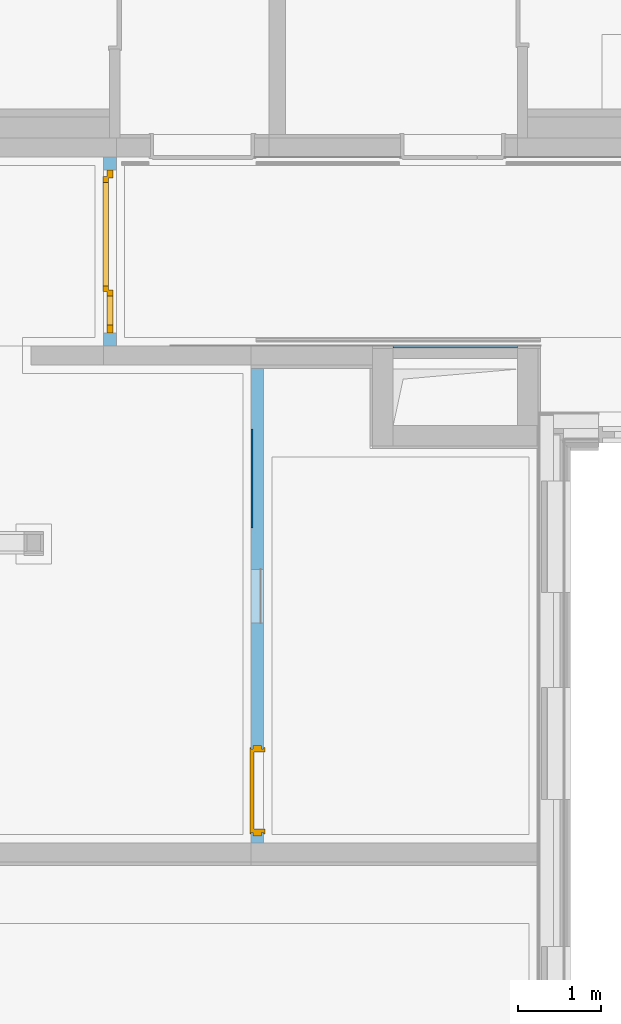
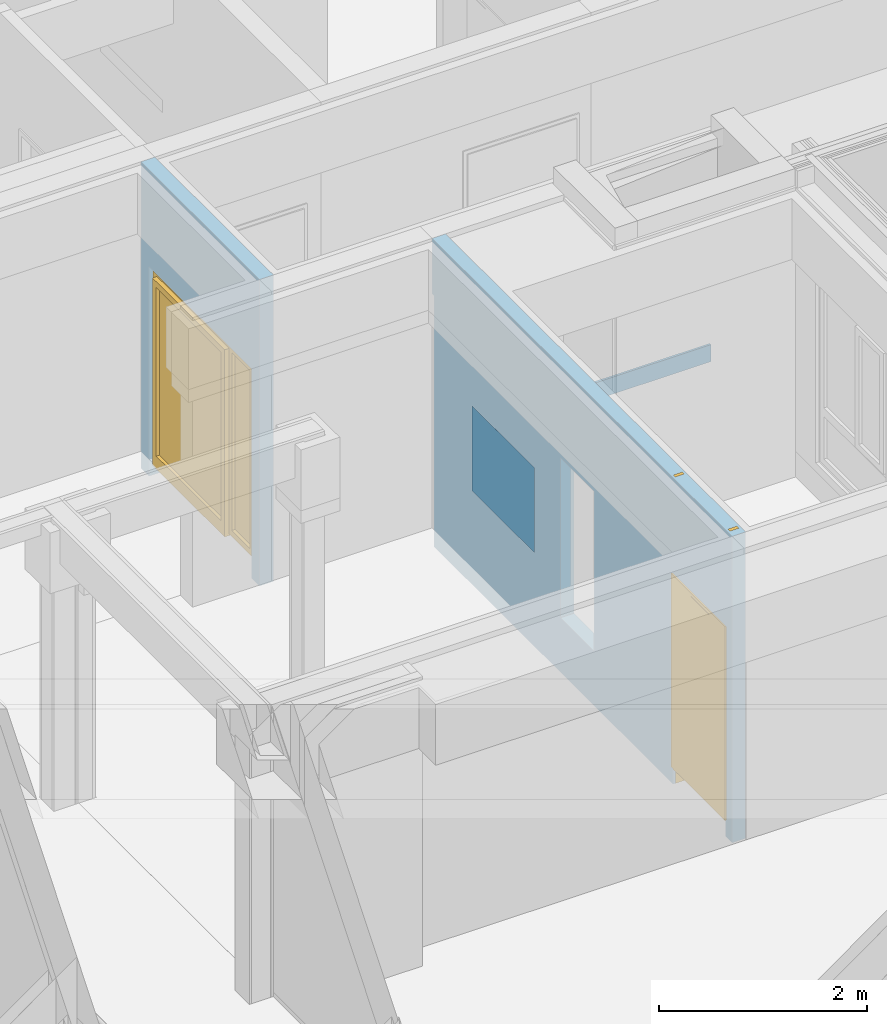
# One storey, part 132 of 207: 2 doors, 2 walls, 3 openings, plus 2 elements that do not belong to this part.
"""IFC4 building model written with IfcOpenShell, lengths in metres."""

from ifc_helpers import new_model, entity, si_unit, converted_unit, derived_unit, frame, frame_2d, origin, origin_with_axes, place, context, subcontext, project, spatial, polyline, rectangle, outline, extrude, clip, bounded_halfspace, closed_shell, open_shell, faceted_brep, surface_model, source, transform, mapped, material, type_object, element, fill, save


model = new_model("IFC4")

# Units and contexts
model_context = context("Model", 3, precision=1e-05, world=origin())
body_context = subcontext(model_context, "Body", "Model", "MODEL_VIEW")
ifc_project = project(units=[si_unit("LENGTHUNIT", "METRE"), si_unit("AREAUNIT", "SQUARE_METRE"), si_unit("VOLUMEUNIT", "CUBIC_METRE"), si_unit("MASSUNIT", "GRAM", prefix="KILO"), converted_unit("PLANEANGLEUNIT", "DEGREE", entity("IfcPlaneAngleMeasure", 0.0174532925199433), si_unit("PLANEANGLEUNIT", "RADIAN"), dimensions=[0, 0, 0, 0, 0, 0, 0]), derived_unit("THERMALTRANSMITTANCEUNIT", [(si_unit("POWERUNIT", "WATT"), 1), (si_unit("THERMODYNAMICTEMPERATUREUNIT", "KELVIN"), -1), (si_unit("LENGTHUNIT", "METRE"), -2)]), derived_unit("VOLUMETRICFLOWRATEUNIT", [(si_unit("LENGTHUNIT", "METRE"), 3), (converted_unit("TIMEUNIT", "hour", entity("IfcTimeMeasure", 3600.0), si_unit("TIMEUNIT", "SECOND"), dimensions=[0, 0, 1, 0, 0, 0, 0]), -1), (si_unit("LENGTHUNIT", "METRE"), -1)])], contexts=[model_context])

# Site, building, storey
site_placement = place(None, origin())
site = spatial("IfcSite", under=ifc_project, at=site_placement, Name="Psychiatrie Neubau Wunstorf", CompositionType="ELEMENT")
building_placement = place(site_placement, origin())
building = spatial("IfcBuilding", under=site, at=building_placement, Name="Neubau H2 Stationsgebäude", CompositionType="ELEMENT")
storey_placement = place(building_placement, frame((0.0, 0.0, -0.2)))
storey = spatial("IfcBuildingStorey", under=building, at=storey_placement, Name="H2 Ebene 0", CompositionType="ELEMENT", Elevation=-0.2)

# Wall
wall_1_placement = place(storey_placement, frame((75.684, 20.6340000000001, 1.1)))
element("IfcWall", 1, at=wall_1_placement, inside=storey, Name="WV 1.1", context=body_context, shape_type="Brep", body=[
    faceted_brep([(0.025, 1.2, 0.0), (0.0, 1.2, 0.0), (0.0, 0.0, 0.0), (0.025, 0.0, 0.0), (0.0, 1.2, 1.0), (0.025, 1.2, 1.0), (0.025, 0.0, 1.0), (0.0, 0.0, 1.0)], [[[0, 1, 2, 3]], [[4, 5, 6, 7]], [[1, 0, 5, 4]], [[2, 1, 4, 7]], [[3, 2, 7, 6]], [[0, 3, 6, 5]]], orient=[[False], [False], [False], [False], [False], [False]]),
])

# Wall, openings, door
ifc_material_1 = material(Name="WI-LB")
wall_2_placement = place(storey_placement, frame((75.684, 22.604, 0.0), z_axis=(0.0, 0.0, 1.0), x_axis=(0.0, -1.0, 0.0)))
wall_2 = element("IfcWall", 2, at=wall_2_placement, inside=storey, material=ifc_material_1, context=body_context, shape_type="Clipping", body=[
    clip(extrude(rectangle(XDim=5.7715, YDim=0.15, at=frame_2d((2.88575, 0.075), x_axis=(1.0, 0.0))), origin_with_axes(), (0.0, 0.0, 1.0), 3.6), bounded_halfspace(frame((0.02, 0.075, 2.95), z_axis=(0.0, 0.0, 1.0), x_axis=(0.0, 1.0, 0.0)), True, origin_with_axes(), polyline([(0.04, 0.0), (0.04, 0.15), (0.0, 0.15), (0.0, 0.0), (0.04, 0.0)]))),
])
opening_1_placement = place(wall_2_placement, frame((4.6365, 0.0, 0.0), z_axis=(0.0, 1.0, 0.0), x_axis=(0.0, 0.0, 1.0)))
opening_1 = element("IfcOpeningElement", 3, at=opening_1_placement, cuts=wall_2, Name="Türöffnung", ObjectType="Opening", context=body_context, shape_type="SweptSolid", body=[
    extrude(outline(polyline([(2.46, 1.01), (2.46, 0.0), (0.0, 0.0), (0.0, 1.01), (2.46, 1.01)])), origin_with_axes(), (0.0, 0.0, 1.0), 0.15),
])
opening_2_placement = place(wall_2_placement, frame((2.46720215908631, 0.0, 0.64), z_axis=(0.0, 1.0, 0.0), x_axis=(0.0, 0.0, 1.0)))
element("IfcOpeningElement", 4, at=opening_2_placement, cuts=wall_2, Name="Fensteröffnung", ObjectType="Opening", context=body_context, shape_type="SweptSolid", body=[
    extrude(outline(polyline([(1.88, 0.649942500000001), (1.88, 0.0), (0.0, 0.0), (0.0, 0.649942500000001), (1.88, 0.649942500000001)])), origin_with_axes(), (0.0, 0.0, 1.0), 0.15),
])
ifc_material_2 = material(Name="TI-1F-UZ-ZK")
door_type = type_object("IfcDoorType", Name="SMT", OperationType="SINGLE_SWING_RIGHT", ParameterTakesPrecedence=False, PredefinedType="DOOR")
shared_shape_1 = source(origin_with_axes(), body_context, "Body", "Brep", [
    faceted_brep([(-0.0399999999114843, 0.0250000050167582, 0.0), (0.0, 0.0250000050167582, 0.0), (0.0, 0.1249999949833, 0.0), (-0.0399999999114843, 0.1249999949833, 0.0), (-0.0399999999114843, 0.1249999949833, 3.6), (0.0, 0.1249999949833, 3.6), (0.0, 0.0250000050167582, 3.6), (-0.0399999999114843, 0.0250000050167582, 3.6)], [[[0, 1, 2, 3]], [[4, 5, 6, 7]], [[3, 4, 7, 0]], [[2, 5, 4, 3]], [[1, 6, 5, 2]], [[0, 7, 6, 1]]], orient=[[False], [False], [False], [False], [False], [False]]),
    faceted_brep([(1.00999999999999, 0.0250000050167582, 0.0), (1.04999999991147, 0.0250000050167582, 0.0), (1.04999999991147, 0.1249999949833, 0.0), (1.00999999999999, 0.1249999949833, 0.0), (1.00999999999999, 0.1249999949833, 3.6), (1.04999999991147, 0.1249999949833, 3.6), (1.04999999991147, 0.0250000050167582, 3.6), (1.00999999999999, 0.0250000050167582, 3.6)], [[[0, 1, 2, 3]], [[4, 5, 6, 7]], [[3, 4, 7, 0]], [[2, 5, 4, 3]], [[1, 6, 5, 2]], [[0, 7, 6, 1]]], orient=[[False], [False], [False], [False], [False], [False]]),
    faceted_brep([(0.0, 0.0250000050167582, 2.46), (1.00999999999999, 0.0250000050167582, 2.46), (1.00999999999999, 0.1249999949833, 2.46), (0.0, 0.1249999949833, 2.46), (0.0, 0.1249999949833, 2.5), (1.00999999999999, 0.1249999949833, 2.5), (1.00999999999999, 0.0250000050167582, 2.5), (0.0, 0.0250000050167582, 2.5)], [[[0, 1, 2, 3]], [[4, 5, 6, 7]], [[3, 4, 7, 0]], [[2, 5, 4, 3]], [[1, 6, 5, 2]], [[0, 7, 6, 1]]], orient=[[False], [False], [False], [False], [False], [False]]),
])
shared_shape_2 = source(origin_with_axes(), body_context, "Body", "Brep", [
    faceted_brep([(0.0, -0.0149999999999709, 2.46), (0.0399999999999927, -0.0149999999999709, 2.46), (0.0399999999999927, -0.0149999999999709, 0.2), (0.0, -0.0149999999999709, 0.2), (0.0, 0.165000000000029, 0.2), (0.0399999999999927, 0.165000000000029, 0.2), (0.0399999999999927, 0.165000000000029, 2.46), (0.0, 0.165000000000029, 2.46)], [[[0, 1, 2, 3]], [[4, 5, 6, 7]], [[3, 4, 7, 0]], [[2, 5, 4, 3]], [[1, 6, 5, 2]], [[0, 7, 6, 1]]], orient=[[False], [False], [False], [False], [False], [False]]),
    faceted_brep([(0.0, -0.0149999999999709, 2.475), (0.0, -0.0149999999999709, 0.2), (-0.0150000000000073, -0.0149999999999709, 0.2), (-0.0150000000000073, -0.0149999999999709, 2.475), (0.0, 0.0, 0.2), (0.0, 0.0, 2.475), (-0.0150000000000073, 0.0, 2.475), (-0.0150000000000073, 0.0, 0.2)], [[[0, 1, 2, 3]], [[4, 5, 6, 7]], [[1, 0, 5, 4]], [[2, 1, 4, 7]], [[3, 2, 7, 6]], [[0, 3, 6, 5]]], orient=[[False], [False], [False], [False], [False], [False]]),
    faceted_brep([(0.0, 0.150000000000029, 2.475), (0.0, 0.150000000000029, 0.2), (-0.0150000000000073, 0.150000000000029, 0.2), (-0.0150000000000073, 0.150000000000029, 2.475), (0.0, 0.165000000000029, 0.2), (0.0, 0.165000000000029, 2.475), (-0.0150000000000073, 0.165000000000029, 2.475), (-0.0150000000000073, 0.165000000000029, 0.2)], [[[0, 1, 2, 3]], [[4, 5, 6, 7]], [[1, 0, 5, 4]], [[2, 1, 4, 7]], [[3, 2, 7, 6]], [[0, 3, 6, 5]]], orient=[[False], [False], [False], [False], [False], [False]]),
    faceted_brep([(0.969999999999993, -0.0149999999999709, 2.46), (1.00999999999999, -0.0149999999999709, 2.46), (1.00999999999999, -0.0149999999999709, 0.2), (0.969999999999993, -0.0149999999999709, 0.2), (0.969999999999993, 0.165000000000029, 0.2), (1.00999999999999, 0.165000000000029, 0.2), (1.00999999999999, 0.165000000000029, 2.46), (0.969999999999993, 0.165000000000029, 2.46)], [[[0, 1, 2, 3]], [[4, 5, 6, 7]], [[3, 4, 7, 0]], [[2, 5, 4, 3]], [[1, 6, 5, 2]], [[0, 7, 6, 1]]], orient=[[False], [False], [False], [False], [False], [False]]),
    faceted_brep([(1.00999999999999, -0.0149999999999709, 2.475), (1.02499999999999, -0.0149999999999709, 2.475), (1.02499999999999, -0.0149999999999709, 0.2), (1.00999999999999, -0.0149999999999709, 0.2), (1.00999999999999, 0.0, 0.2), (1.02499999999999, 0.0, 0.2), (1.02499999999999, 0.0, 2.475), (1.00999999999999, 0.0, 2.475)], [[[0, 1, 2, 3]], [[4, 5, 6, 7]], [[3, 4, 7, 0]], [[2, 5, 4, 3]], [[1, 6, 5, 2]], [[0, 7, 6, 1]]], orient=[[False], [False], [False], [False], [False], [False]]),
    faceted_brep([(1.00999999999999, 0.150000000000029, 2.475), (1.02499999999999, 0.150000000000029, 2.475), (1.02499999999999, 0.150000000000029, 0.2), (1.00999999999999, 0.150000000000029, 0.2), (1.00999999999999, 0.165000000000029, 0.2), (1.02499999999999, 0.165000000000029, 0.2), (1.02499999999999, 0.165000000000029, 2.475), (1.00999999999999, 0.165000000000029, 2.475)], [[[0, 1, 2, 3]], [[4, 5, 6, 7]], [[3, 4, 7, 0]], [[2, 5, 4, 3]], [[1, 6, 5, 2]], [[0, 7, 6, 1]]], orient=[[False], [False], [False], [False], [False], [False]]),
    faceted_brep([(0.0399999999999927, -0.0149999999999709, 2.46), (0.969999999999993, -0.0149999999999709, 2.46), (0.969999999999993, -0.0149999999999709, 2.42), (0.0399999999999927, -0.0149999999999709, 2.42), (0.0399999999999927, 0.165000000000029, 2.42), (0.969999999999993, 0.165000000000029, 2.42), (0.969999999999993, 0.165000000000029, 2.46), (0.0399999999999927, 0.165000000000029, 2.46)], [[[0, 1, 2, 3]], [[4, 5, 6, 7]], [[3, 4, 7, 0]], [[2, 5, 4, 3]], [[1, 6, 5, 2]], [[0, 7, 6, 1]]], orient=[[False], [False], [False], [False], [False], [False]]),
    faceted_brep([(0.0, -0.0149999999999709, 2.475), (1.00999999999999, -0.0149999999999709, 2.475), (1.00999999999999, -0.0149999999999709, 2.46), (0.0, -0.0149999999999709, 2.46), (0.0, 0.0, 2.46), (1.00999999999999, 0.0, 2.46), (1.00999999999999, 0.0, 2.475), (0.0, 0.0, 2.475)], [[[0, 1, 2, 3]], [[4, 5, 6, 7]], [[3, 4, 7, 0]], [[2, 5, 4, 3]], [[1, 6, 5, 2]], [[0, 7, 6, 1]]], orient=[[False], [False], [False], [False], [False], [False]]),
    faceted_brep([(0.0, 0.150000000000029, 2.475), (1.00999999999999, 0.150000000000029, 2.475), (1.00999999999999, 0.150000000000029, 2.46), (0.0, 0.150000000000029, 2.46), (0.0, 0.165000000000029, 2.46), (1.00999999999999, 0.165000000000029, 2.46), (1.00999999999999, 0.165000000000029, 2.475), (0.0, 0.165000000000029, 2.475)], [[[0, 1, 2, 3]], [[4, 5, 6, 7]], [[3, 4, 7, 0]], [[2, 5, 4, 3]], [[1, 6, 5, 2]], [[0, 7, 6, 1]]], orient=[[False], [False], [False], [False], [False], [False]]),
    faceted_brep([(0.0249999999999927, 0.116000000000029, 2.435), (0.984999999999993, 0.116000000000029, 2.435), (0.984999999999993, 0.116000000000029, 0.2), (0.0249999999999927, 0.116000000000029, 0.2), (0.0249999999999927, 0.166000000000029, 0.2), (0.984999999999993, 0.166000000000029, 0.2), (0.984999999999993, 0.166000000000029, 2.435), (0.0249999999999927, 0.166000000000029, 2.435)], [[[0, 1, 2, 3]], [[4, 5, 6, 7]], [[3, 4, 7, 0]], [[2, 5, 4, 3]], [[1, 6, 5, 2]], [[0, 7, 6, 1]]], orient=[[False], [False], [False], [False], [False], [False]]),
])
door_1_placement = place(opening_1_placement, frame((0.0, 1.01, 0.15), z_axis=(1.0, 0.0, 0.0), x_axis=(0.0, -1.0, 0.0)))
door_1 = element("IfcDoor", 5, at=door_1_placement, inside=storey, type_object=door_type, material=ifc_material_2, Name="SMT", OverallHeight=2.46, OverallWidth=1.01, context=body_context, shape_type="MappedRepresentation", body=[
    mapped(shared_shape_1, transform((0.0, 0.0, 0.0), x_axis=(1.0, 0.0, 0.0), y_axis=(0.0, 1.0, 0.0), z_axis=(0.0, 0.0, 1.0), scale=1.0)),
    mapped(shared_shape_2, transform((0.0, 0.0, 0.0), x_axis=(1.0, 0.0, 0.0), y_axis=(0.0, 1.0, 0.0), z_axis=(0.0, 0.0, 1.0), scale=1.0)),
])
fill(opening_1, door_1)

# Wall
wall_3_placement = place(storey_placement, frame((77.4, 22.8110009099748, 0.9)))
element("IfcWall", 6, at=wall_3_placement, inside=storey, Name="WV 1.1", context=body_context, shape_type="Brep", body=[
    faceted_brep([(0.0, 0.025, 0.0), (0.0, 0.0, 0.0), (1.5, 0.0, 0.0), (1.5, 0.025, 0.0), (0.0, 0.0, 0.2), (0.0, 0.025, 0.2), (1.5, 0.025, 0.2), (1.5, 0.0, 0.2)], [[[0, 1, 2, 3]], [[4, 5, 6, 7]], [[1, 0, 5, 4]], [[2, 1, 4, 7]], [[3, 2, 7, 6]], [[0, 3, 6, 5]]], orient=[[False], [False], [False], [False], [False], [False]]),
])

# Wall, opening, door
ifc_material_3 = material(Name="WI-LB")
wall_4_placement = place(storey_placement, frame((74.055, 22.836, 0.0), z_axis=(0.0, 0.0, 1.0), x_axis=(0.0, 1.0, 0.0)))
wall_4 = element("IfcWall", 7, at=wall_4_placement, inside=storey, material=ifc_material_3, context=body_context, shape_type="SweptSolid", body=[
    extrude(rectangle(XDim=2.2815, YDim=0.155, at=frame_2d((1.14075, 0.0775), x_axis=(1.0, 0.0))), origin_with_axes(), (0.0, 0.0, 1.0), 3.6),
])
opening_3_placement = place(wall_4_placement, frame((0.155000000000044, 0.0, 0.0), z_axis=(0.0, 1.0, 0.0), x_axis=(0.0, 0.0, 1.0)))
opening_3 = element("IfcOpeningElement", 8, at=opening_3_placement, cuts=wall_4, Name="Türöffnung", ObjectType="Opening", context=body_context, shape_type="SweptSolid", body=[
    extrude(outline(polyline([(2.46, 1.9715), (2.46, 0.0), (0.0, 0.0), (0.0, 1.9715), (2.46, 1.9715)])), origin_with_axes(), (0.0, 0.0, 1.0), 0.155),
])
ifc_material_4 = material(Name="TI-2F-AG-D-O")
shared_shape_3 = source(origin_with_axes(), body_context, "Body", "Brep", [
    faceted_brep([(2.09899999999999, -0.0144999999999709, 0.0), (2.09899999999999, 0.0855000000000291, 0.0), (1.99899999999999, 0.0855000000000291, 0.0), (1.99899999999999, -0.0144999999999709, 0.0), (2.09899999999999, 0.0855000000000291, 3.6), (2.09899999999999, -0.0144999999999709, 3.6), (1.99899999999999, -0.0144999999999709, 3.6), (1.99899999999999, 0.0855000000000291, 3.6)], [[[0, 1, 2, 3]], [[4, 5, 6, 7]], [[1, 0, 5, 4]], [[2, 1, 4, 7]], [[3, 2, 7, 6]], [[0, 3, 6, 5]]], orient=[[False], [False], [False], [False], [False], [False]]),
    faceted_brep([(-0.0275000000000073, -0.0144999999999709, 0.0), (-0.0275000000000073, 0.0855000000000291, 0.0), (-0.127500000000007, 0.0855000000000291, 0.0), (-0.127500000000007, -0.0144999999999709, 0.0), (-0.0275000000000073, 0.0855000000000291, 3.6), (-0.0275000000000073, -0.0144999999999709, 3.6), (-0.127500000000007, -0.0144999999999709, 3.6), (-0.127500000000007, 0.0855000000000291, 3.6)], [[[0, 1, 2, 3]], [[4, 5, 6, 7]], [[1, 0, 5, 4]], [[2, 1, 4, 7]], [[3, 2, 7, 6]], [[0, 3, 6, 5]]], orient=[[False], [False], [False], [False], [False], [False]]),
    faceted_brep([(1.99899999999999, -0.0144999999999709, 2.4875), (1.99899999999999, 0.0855000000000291, 2.4875), (-0.0275000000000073, 0.0855000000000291, 2.4875), (-0.0275000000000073, -0.0144999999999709, 2.4875), (1.99899999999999, 0.0855000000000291, 2.5875), (1.99899999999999, -0.0144999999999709, 2.5875), (-0.0275000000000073, -0.0144999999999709, 2.5875), (-0.0275000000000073, 0.0855000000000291, 2.5875)], [[[0, 1, 2, 3]], [[4, 5, 6, 7]], [[1, 0, 5, 4]], [[2, 1, 4, 7]], [[3, 2, 7, 6]], [[0, 3, 6, 5]]], orient=[[False], [False], [False], [False], [False], [False]]),
])
shared_shape_4 = source(origin_with_axes(), body_context, "Body", "SurfaceModel", [
    surface_model("IfcShellBasedSurfaceModel", [(1.97149999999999, 0.000500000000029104, 2.46), (1.97149999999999, 0.000500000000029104, 0.2), (1.87149999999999, 0.000500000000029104, 0.2), (1.87149999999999, 0.000500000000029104, 2.46), (1.97149999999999, 0.0705000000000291, 0.2), (1.97149999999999, 0.0705000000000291, 2.46), (1.87149999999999, 0.0705000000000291, 2.46), (1.87149999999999, 0.0705000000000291, 0.2)], [closed_shell([[[0, 1, 2, 3]], [[4, 5, 6, 7]], [[1, 0, 5, 4]], [[2, 1, 4, 7]], [[3, 2, 7, 6]], [[0, 3, 6, 5]]], orient=[[False], [False], [False], [False], [False], [False]])]),
    surface_model("IfcShellBasedSurfaceModel", [(0.0999999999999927, 0.000500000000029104, 2.46), (0.0999999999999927, 0.000500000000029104, 0.2), (0.0, 0.000500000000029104, 0.2), (0.0, 0.000500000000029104, 2.46), (0.0999999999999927, 0.0705000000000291, 0.2), (0.0999999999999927, 0.0705000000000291, 2.46), (0.0, 0.0705000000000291, 2.46), (0.0, 0.0705000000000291, 0.2)], [closed_shell([[[0, 1, 2, 3]], [[4, 5, 6, 7]], [[1, 0, 5, 4]], [[2, 1, 4, 7]], [[3, 2, 7, 6]], [[0, 3, 6, 5]]], orient=[[False], [False], [False], [False], [False], [False]])]),
    surface_model("IfcShellBasedSurfaceModel", [(1.87149999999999, 0.000500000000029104, 2.46), (1.87149999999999, 0.000500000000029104, 2.36), (0.0999999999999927, 0.000500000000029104, 2.36), (0.0999999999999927, 0.000500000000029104, 2.46), (1.87149999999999, 0.0705000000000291, 2.36), (1.87149999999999, 0.0705000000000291, 2.46), (0.0999999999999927, 0.0705000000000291, 2.46), (0.0999999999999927, 0.0705000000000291, 2.36)], [closed_shell([[[0, 1, 2, 3]], [[4, 5, 6, 7]], [[1, 0, 5, 4]], [[2, 1, 4, 7]], [[3, 2, 7, 6]], [[0, 3, 6, 5]]], orient=[[False], [False], [False], [False], [False], [False]])]),
    surface_model("IfcShellBasedSurfaceModel", [(0.521499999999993, 0.000500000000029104, 2.36), (0.521499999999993, 0.000500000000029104, 0.2), (0.451499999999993, 0.000500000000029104, 0.2), (0.451499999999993, 0.000500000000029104, 2.36), (0.521499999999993, 0.0705000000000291, 0.2), (0.521499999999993, 0.0705000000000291, 2.36), (0.451499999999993, 0.0705000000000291, 2.36), (0.451499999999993, 0.0705000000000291, 0.2)], [closed_shell([[[0, 1, 2, 3]], [[4, 5, 6, 7]], [[1, 0, 5, 4]], [[2, 1, 4, 7]], [[3, 2, 7, 6]], [[0, 3, 6, 5]]], orient=[[False], [False], [False], [False], [False], [False]])]),
    surface_model("IfcShellBasedSurfaceModel", [(1.89149999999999, 0.0505000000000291, 2.38), (1.89149999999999, 0.0505000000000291, 0.18), (1.82149999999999, 0.0505000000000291, 0.18), (1.82149999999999, 0.0505000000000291, 2.38), (1.89149999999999, 0.120500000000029, 0.18), (1.89149999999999, 0.120500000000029, 2.38), (1.82149999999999, 0.120500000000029, 2.38), (1.82149999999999, 0.120500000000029, 0.18)], [closed_shell([[[0, 1, 2, 3]], [[4, 5, 6, 7]], [[1, 0, 5, 4]], [[2, 1, 4, 7]], [[3, 2, 7, 6]], [[0, 3, 6, 5]]], orient=[[False], [False], [False], [False], [False], [False]])]),
    surface_model("IfcShellBasedSurfaceModel", [(0.571499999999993, 0.0505000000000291, 2.38), (0.571499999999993, 0.0505000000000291, 0.18), (0.501499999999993, 0.0505000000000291, 0.18), (0.501499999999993, 0.0505000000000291, 2.38), (0.571499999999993, 0.120500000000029, 0.18), (0.571499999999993, 0.120500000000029, 2.38), (0.501499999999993, 0.120500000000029, 2.38), (0.501499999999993, 0.120500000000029, 0.18)], [closed_shell([[[0, 1, 2, 3]], [[4, 5, 6, 7]], [[1, 0, 5, 4]], [[2, 1, 4, 7]], [[3, 2, 7, 6]], [[0, 3, 6, 5]]], orient=[[False], [False], [False], [False], [False], [False]])]),
    surface_model("IfcShellBasedSurfaceModel", [(1.82149999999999, 0.0505000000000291, 0.33), (1.82149999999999, 0.0505000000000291, 0.18), (0.571499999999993, 0.0505000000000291, 0.18), (0.571499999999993, 0.0505000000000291, 0.33), (1.82149999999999, 0.120500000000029, 0.18), (1.82149999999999, 0.120500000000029, 0.33), (0.571499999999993, 0.120500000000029, 0.33), (0.571499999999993, 0.120500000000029, 0.18)], [closed_shell([[[0, 1, 2, 3]], [[4, 5, 6, 7]], [[1, 0, 5, 4]], [[2, 1, 4, 7]], [[3, 2, 7, 6]], [[0, 3, 6, 5]]], orient=[[False], [False], [False], [False], [False], [False]])]),
    surface_model("IfcShellBasedSurfaceModel", [(1.82149999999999, 0.0505000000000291, 2.38), (1.82149999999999, 0.0505000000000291, 2.31), (0.571499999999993, 0.0505000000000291, 2.31), (0.571499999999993, 0.0505000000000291, 2.38), (1.82149999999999, 0.120500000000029, 2.31), (1.82149999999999, 0.120500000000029, 2.38), (0.571499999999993, 0.120500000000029, 2.38), (0.571499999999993, 0.120500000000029, 2.31)], [closed_shell([[[0, 1, 2, 3]], [[4, 5, 6, 7]], [[1, 0, 5, 4]], [[2, 1, 4, 7]], [[3, 2, 7, 6]], [[0, 3, 6, 5]]], orient=[[False], [False], [False], [False], [False], [False]])]),
    surface_model("IfcShellBasedSurfaceModel", [(0.451499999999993, 0.000500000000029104, 0.27), (0.451499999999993, 0.000500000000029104, 0.2), (0.0999999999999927, 0.000500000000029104, 0.2), (0.0999999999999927, 0.000500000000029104, 0.27), (0.451499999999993, 0.0705000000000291, 0.2), (0.451499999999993, 0.0705000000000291, 0.27), (0.0999999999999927, 0.0705000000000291, 0.27), (0.0999999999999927, 0.0705000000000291, 0.2)], [closed_shell([[[0, 1, 2, 3]], [[4, 5, 6, 7]], [[1, 0, 5, 4]], [[2, 1, 4, 7]], [[3, 2, 7, 6]], [[0, 3, 6, 5]]], orient=[[False], [False], [False], [False], [False], [False]])]),
    surface_model("IfcShellBasedSurfaceModel", [(1.82149999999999, 0.0855000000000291, 0.33), (0.571499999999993, 0.0855000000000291, 0.33), (0.571499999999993, 0.0855000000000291, 2.31), (1.82149999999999, 0.0855000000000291, 2.31)], [open_shell([[[0, 1, 2, 3]]], orient=[[False]])]),
    surface_model("IfcShellBasedSurfaceModel", [(0.451499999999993, 0.0355000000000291, 0.27), (0.0999999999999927, 0.0355000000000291, 0.27), (0.0999999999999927, 0.0355000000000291, 2.36), (0.451499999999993, 0.0355000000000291, 2.36)], [open_shell([[[0, 1, 2, 3]]], orient=[[False]])]),
])
door_2_placement = place(opening_3_placement, frame((0.0, 0.0, 0.042), z_axis=(1.0, 0.0, 0.0), x_axis=(0.0, 1.0, 0.0)))
door_2 = element("IfcDoor", 9, at=door_2_placement, inside=storey, material=ifc_material_4, Name="SMT", OperationType="USERDEFINED", OverallHeight=2.46, OverallWidth=1.9715, PredefinedType="DOOR", context=body_context, shape_type="MappedRepresentation", body=[
    mapped(shared_shape_3, transform((0.0, 0.0, 0.0), x_axis=(1.0, 0.0, 0.0), y_axis=(0.0, 1.0, 0.0), z_axis=(0.0, 0.0, 1.0), scale=1.0)),
    mapped(shared_shape_4, transform((0.0, 0.0, 0.0), x_axis=(1.0, 0.0, 0.0), y_axis=(0.0, 1.0, 0.0), z_axis=(0.0, 0.0, 1.0), scale=1.0)),
])
fill(opening_3, door_2)

save(model, "model.ifc")
